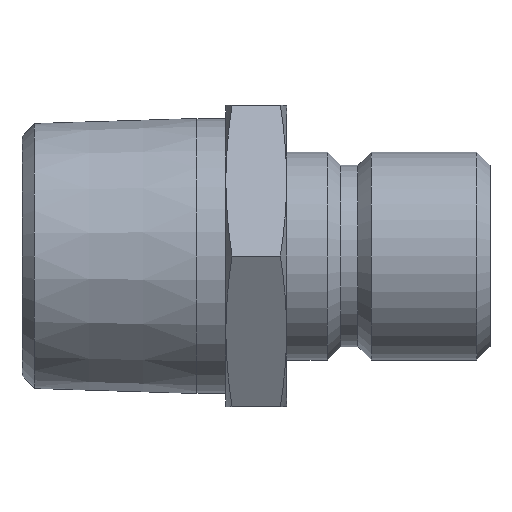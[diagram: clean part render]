
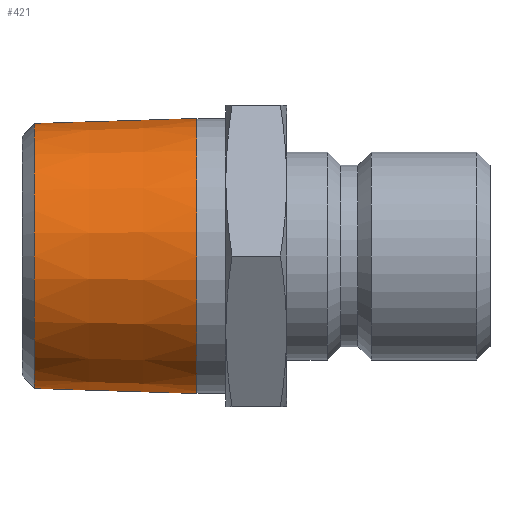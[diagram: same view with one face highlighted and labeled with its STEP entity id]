
A CAD part, front view. The second image highlights one B-rep face of the part: STEP entity #421.
In plain terms, the highlighted conical face has half-angle 1.79 degrees and reference radius 12.732 mm.
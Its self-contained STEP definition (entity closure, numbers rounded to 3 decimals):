
#61=CIRCLE('',#480,12.732);
#62=CIRCLE('',#482,13.221);
#112=ORIENTED_EDGE('',*,*,#221,.F.);
#113=ORIENTED_EDGE('',*,*,#220,.T.);
#220=EDGE_CURVE('',#263,#263,#61,.T.);
#221=EDGE_CURVE('',#264,#264,#62,.T.);
#263=VERTEX_POINT('',#783);
#264=VERTEX_POINT('',#786);
#314=EDGE_LOOP('',(#112));
#315=EDGE_LOOP('',(#113));
#360=FACE_BOUND('',#314,.T.);
#361=FACE_BOUND('',#315,.T.);
#403=CONICAL_SURFACE('',#481,12.732,0.031);
#421=ADVANCED_FACE('',(#360,#361),#403,.T.);
#480=AXIS2_PLACEMENT_3D('',#782,#567,#568);
#481=AXIS2_PLACEMENT_3D('',#784,#569,#570);
#482=AXIS2_PLACEMENT_3D('',#785,#571,#572);
#567=DIRECTION('',(1.,0.,0.));
#568=DIRECTION('',(0.,0.,-1.));
#569=DIRECTION('',(1.,0.,0.));
#570=DIRECTION('',(0.,0.,-1.));
#571=DIRECTION('',(1.,0.,0.));
#572=DIRECTION('',(0.,0.,-1.));
#782=CARTESIAN_POINT('',(1.2,0.,0.));
#783=CARTESIAN_POINT('',(1.2,0.,-12.732));
#784=CARTESIAN_POINT('',(1.2,0.,0.));
#785=CARTESIAN_POINT('',(16.826,0.,0.));
#786=CARTESIAN_POINT('',(16.826,0.,-13.221));
